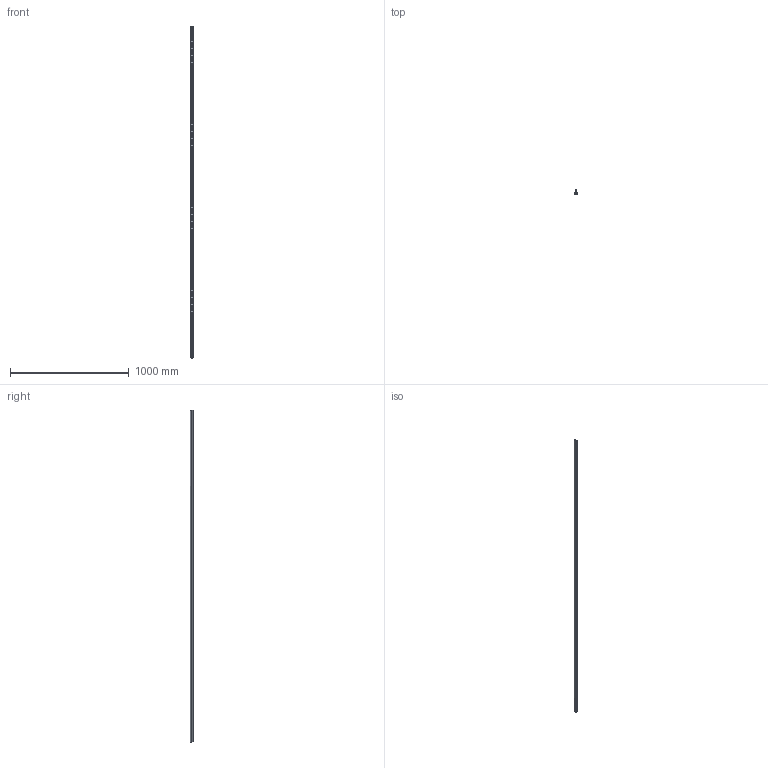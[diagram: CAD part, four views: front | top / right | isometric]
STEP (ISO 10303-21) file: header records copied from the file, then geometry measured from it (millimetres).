
FILE_DESCRIPTION (( 'STEP AP203' ), '1' );
FILE_NAME ('LFS-12-11_-_LFS-12-11 L=2798 - ArtNr 220002 2798.step', '2015-05-04T10:57:38', ( '' ), ( '' ), 'SwSTEP 2.0', 'SolidWorks 2014', '' );
FILE_SCHEMA (( 'CONFIG_CONTROL_DESIGN' ));
Length unit declared in the file: millimetre
Products named in the file (1): LFS-12-11_-_LFS-12-11 L=2798 - ArtNr 220002 2798
Bounding box: 20 x 30.98 x 2800 mm (x, y, z)
Volume: 846432.6 mm3; surface area: 378227.4 mm2
Topology: 1 solids, 1 shells, 1894 faces, 5064 edges, 3226 vertices
Faces by surface type: cylinder 911, plane 871, cone 56, torus 56
Full cylindrical faces by diameter (mm): 7 x56, 8 x56, 12 x1
Entity records: 60628 total; most frequent: CARTESIAN_POINT 18246, ORIENTED_EDGE 9452, DIRECTION 7653, EDGE_CURVE 4726, VERTEX_POINT 3113, AXIS2_PLACEMENT_3D 2600, VECTOR 2453, LINE 2453
